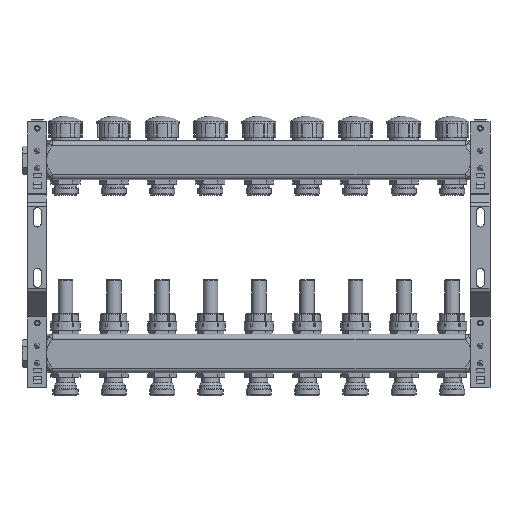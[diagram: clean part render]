
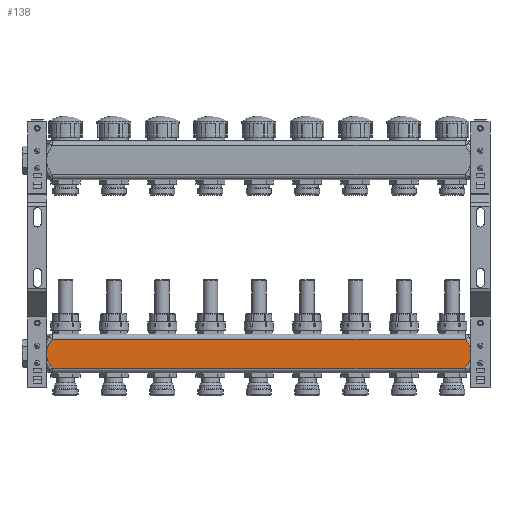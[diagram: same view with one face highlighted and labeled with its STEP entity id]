
A CAD part, front view. The second image highlights one B-rep face of the part: STEP entity #138.
In plain terms, the highlighted planar face has unit normal (0, -1, 0).
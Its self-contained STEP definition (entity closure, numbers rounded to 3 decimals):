
#138=ADVANCED_FACE('',(#3054),#3056,.T.);
#3054=FACE_BOUND('',#3055,.T.);
#3055=EDGE_LOOP('',(#17710,#17711,#17712,#17713));
#3056=PLANE('',#3057);
#3057=AXIS2_PLACEMENT_3D('',#3058,#3059,#3060);
#3058=CARTESIAN_POINT('',(1.7,46.5,-219.65));
#3059=DIRECTION('',(0.,-1.,0.));
#3060=DIRECTION('',(0.,0.,-1.));
#17710=ORIENTED_EDGE('',*,*,#26465,.T.);
#17711=ORIENTED_EDGE('',*,*,#26466,.F.);
#17712=ORIENTED_EDGE('',*,*,#26186,.T.);
#17713=ORIENTED_EDGE('',*,*,#26467,.T.);
#26186=EDGE_CURVE('',#30798,#30796,#30799,.T.);
#26465=EDGE_CURVE('',#31267,#31268,#31269,.T.);
#26466=EDGE_CURVE('',#30798,#31268,#31270,.T.);
#26467=EDGE_CURVE('',#30796,#31267,#31271,.T.);
#30796=VERTEX_POINT('',#40317);
#30798=VERTEX_POINT('',#40322);
#30799=B_SPLINE_CURVE_WITH_KNOTS('',3,
(#40323,#40324,#40325,#40326,#40327,#40328,#40329,#40330,#40331,#40332,#40333,#40334,
#40335,#40336,#40337,#40338,#40339,#40340,#40341,#40342,#40343,#40344,#40345,#40346),
.UNSPECIFIED.,.F.,.F.,
(4,1,1,1,1,1,1,1,1,1,1,1,1,1,1,1,1,1,1,1,1,4),
(0.,0.066,0.123,0.171,0.221,0.271,
0.322,0.369,0.413,0.45,0.485,
0.521,0.557,0.597,0.64,0.687,
0.738,0.789,0.841,0.891,0.945,
1.),
.UNSPECIFIED.);
#31267=VERTEX_POINT('',#42739);
#31268=VERTEX_POINT('',#42740);
#31269=B_SPLINE_CURVE_WITH_KNOTS('',3,
(#42741,#42742,#42743,#42744,#42745,#42746,#42747,#42748,#42749,#42750,#42751,#42752,
#42753,#42754,#42755,#42756,#42757,#42758,#42759,#42760,#42761,#42762,#42763,#42764),
.UNSPECIFIED.,.F.,.F.,
(4,1,1,1,1,1,1,1,1,1,1,1,1,1,1,1,1,1,1,1,1,4),
(0.,0.066,0.123,0.171,0.221,0.271,
0.322,0.369,0.413,0.45,0.485,
0.521,0.557,0.597,0.64,0.687,
0.738,0.789,0.841,0.891,0.945,
1.),
.UNSPECIFIED.);
#31270=LINE('',#42765,#42766);
#31271=LINE('',#42768,#42769);
#40317=CARTESIAN_POINT('',(25.634,46.5,-254.65));
#40322=CARTESIAN_POINT('',(25.634,46.5,-224.65));
#40323=CARTESIAN_POINT('',(25.634,46.5,-224.65));
#40324=CARTESIAN_POINT('',(25.196,46.5,-225.269));
#40325=CARTESIAN_POINT('',(24.401,46.5,-226.43));
#40326=CARTESIAN_POINT('',(23.362,46.5,-228.064));
#40327=CARTESIAN_POINT('',(22.485,46.5,-229.562));
#40328=CARTESIAN_POINT('',(21.717,46.5,-231.008));
#40329=CARTESIAN_POINT('',(21.012,46.5,-232.516));
#40330=CARTESIAN_POINT('',(20.421,46.5,-234.022));
#40331=CARTESIAN_POINT('',(19.968,46.5,-235.487));
#40332=CARTESIAN_POINT('',(19.669,46.5,-236.817));
#40333=CARTESIAN_POINT('',(19.494,46.5,-238.033));
#40334=CARTESIAN_POINT('',(19.414,46.5,-239.176));
#40335=CARTESIAN_POINT('',(19.421,46.5,-240.315));
#40336=CARTESIAN_POINT('',(19.518,46.5,-241.495));
#40337=CARTESIAN_POINT('',(19.72,46.5,-242.746));
#40338=CARTESIAN_POINT('',(20.047,46.5,-244.096));
#40339=CARTESIAN_POINT('',(20.52,46.5,-245.553));
#40340=CARTESIAN_POINT('',(21.134,46.5,-247.064));
#40341=CARTESIAN_POINT('',(21.87,46.5,-248.596));
#40342=CARTESIAN_POINT('',(22.685,46.5,-250.094));
#40343=CARTESIAN_POINT('',(23.586,46.5,-251.598));
#40344=CARTESIAN_POINT('',(24.565,46.5,-253.112));
#40345=CARTESIAN_POINT('',(25.27,46.5,-254.135));
#40346=CARTESIAN_POINT('',(25.634,46.5,-254.65));
#42739=CARTESIAN_POINT('',(452.766,46.5,-254.65));
#42740=CARTESIAN_POINT('',(452.766,46.5,-224.65));
#42741=CARTESIAN_POINT('',(452.766,46.5,-254.65));
#42742=CARTESIAN_POINT('',(453.204,46.5,-254.031));
#42743=CARTESIAN_POINT('',(453.999,46.5,-252.87));
#42744=CARTESIAN_POINT('',(455.038,46.5,-251.236));
#42745=CARTESIAN_POINT('',(455.915,46.5,-249.738));
#42746=CARTESIAN_POINT('',(456.683,46.5,-248.292));
#42747=CARTESIAN_POINT('',(457.388,46.5,-246.784));
#42748=CARTESIAN_POINT('',(457.979,46.5,-245.278));
#42749=CARTESIAN_POINT('',(458.432,46.5,-243.813));
#42750=CARTESIAN_POINT('',(458.731,46.5,-242.483));
#42751=CARTESIAN_POINT('',(458.906,46.5,-241.267));
#42752=CARTESIAN_POINT('',(458.986,46.5,-240.124));
#42753=CARTESIAN_POINT('',(458.979,46.5,-238.985));
#42754=CARTESIAN_POINT('',(458.882,46.5,-237.805));
#42755=CARTESIAN_POINT('',(458.68,46.5,-236.554));
#42756=CARTESIAN_POINT('',(458.353,46.5,-235.204));
#42757=CARTESIAN_POINT('',(457.88,46.5,-233.747));
#42758=CARTESIAN_POINT('',(457.266,46.5,-232.236));
#42759=CARTESIAN_POINT('',(456.53,46.5,-230.704));
#42760=CARTESIAN_POINT('',(455.715,46.5,-229.206));
#42761=CARTESIAN_POINT('',(454.814,46.5,-227.702));
#42762=CARTESIAN_POINT('',(453.835,46.5,-226.188));
#42763=CARTESIAN_POINT('',(453.13,46.5,-225.165));
#42764=CARTESIAN_POINT('',(452.766,46.5,-224.65));
#42765=CARTESIAN_POINT('',(25.634,46.5,-224.65));
#42766=VECTOR('',#42767,1.);
#42767=DIRECTION('',(1.,0.,0.));
#42768=CARTESIAN_POINT('',(25.634,46.5,-254.65));
#42769=VECTOR('',#42770,1.);
#42770=DIRECTION('',(1.,0.,0.));
